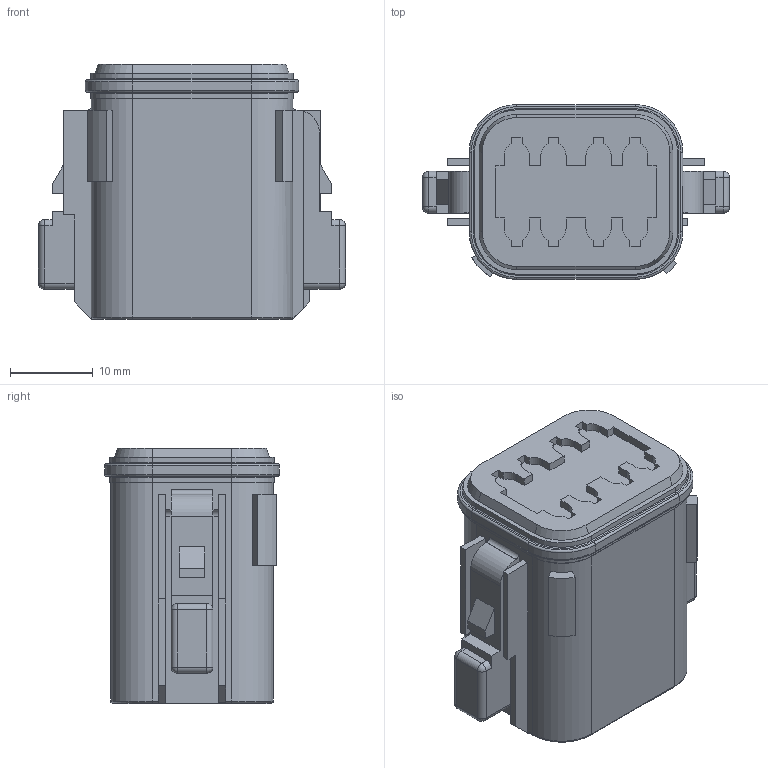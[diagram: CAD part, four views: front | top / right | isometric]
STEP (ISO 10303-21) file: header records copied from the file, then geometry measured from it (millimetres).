
FILE_DESCRIPTION((''),'2;1');
FILE_NAME('C-DT06-08SA-CE10','2013-05-02T',('workeradm'),('Tyco Electronics Ltd.'),'PRO/ENGINEER BY PARAMETRIC TECHNOLOGY CORPORATION, 2011490','PRO/ENGINEER BY PARAMETRIC TECHNOLOGY CORPORATION, 2011490','');
FILE_SCHEMA(('AUTOMOTIVE_DESIGN { 1 0 10303 214 1 1 1 1 }'));
Length unit declared in the file: millimetre
Products named in the file (1): C-DT06-08SA-CE10
Bounding box: 37.21 x 21.18 x 31.01 mm (x, y, z)
Volume: 14949.9 mm3; surface area: 4902.4 mm2
Topology: 1 solids, 1 shells, 427 faces, 1089 edges, 694 vertices
Faces by surface type: plane 245, cylinder 118, torus 52, sphere 8, cone 4
Entity records: 13159 total; most frequent: DIRECTION 2275, CARTESIAN_POINT 2212, ORIENTED_EDGE 2178, EDGE_CURVE 1089, AXIS2_PLACEMENT_3D 759, VECTOR 757, LINE 757, VERTEX_POINT 694
